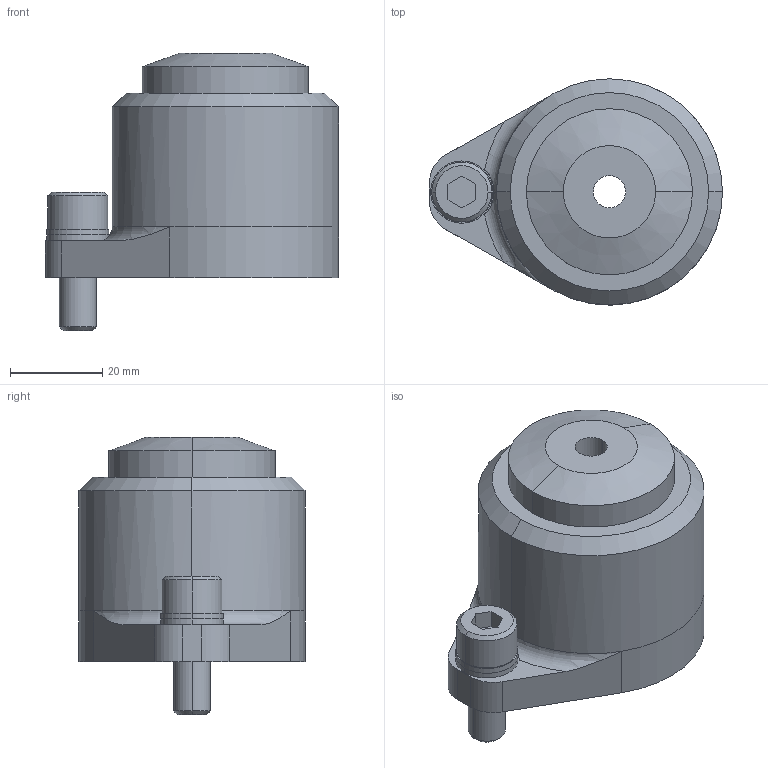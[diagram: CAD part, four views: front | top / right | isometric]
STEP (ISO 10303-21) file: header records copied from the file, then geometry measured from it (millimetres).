
FILE_DESCRIPTION(/* description */ (''),/* implementation_level */ '2;1');
FILE_NAME(/* name */ '3d_spra13-g-p7.00_05387_r00.stp',/* time_stamp */ '2011-01-10T14:10:08+09:00',/* author */ ('MISUMI'),/* organization */ (''),/* preprocessor_version */ 'ST-DEVELOPER v11',/* originating_system */ 'UGS - NX 5.0',/* authorisation */ '');
FILE_SCHEMA (('CONFIG_CONTROL_DESIGN'));
Length unit declared in the file: millimetre
Products named in the file (1): 3d_spra13-g-p7.00_05387_r00
Bounding box: 63.5 x 49 x 60.1 mm (x, y, z)
Volume: 77408.8 mm3; surface area: 30810.3 mm2
Topology: 6 solids, 6 shells, 74 faces, 164 edges, 106 vertices
Faces by surface type: cylinder 38, plane 26, cone 8, torus 2
Entity records: 2188 total; most frequent: DIRECTION 398, CARTESIAN_POINT 365, ORIENTED_EDGE 328, EDGE_CURVE 164, AXIS2_PLACEMENT_3D 163, VERTEX_POINT 106, EDGE_LOOP 90, CIRCLE 88
